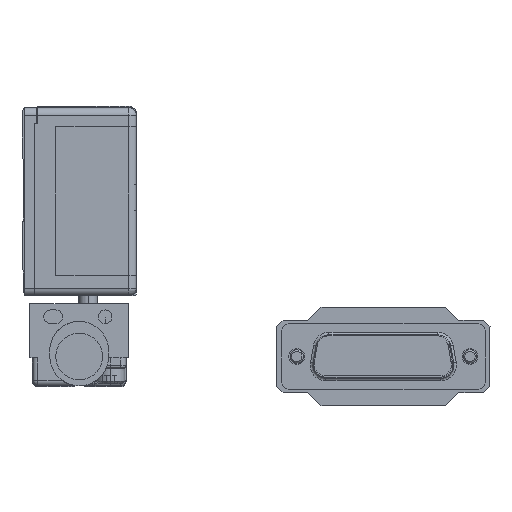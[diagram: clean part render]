
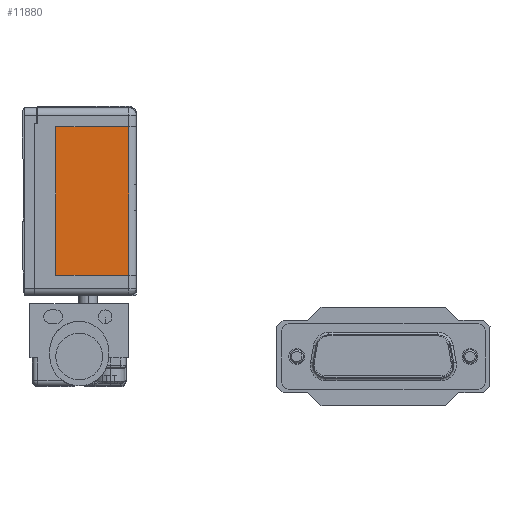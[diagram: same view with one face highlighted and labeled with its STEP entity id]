
A CAD part, left-side view. The second image highlights one B-rep face of the part: STEP entity #11880.
In plain terms, the highlighted planar face has unit normal (-1, 0, 0).
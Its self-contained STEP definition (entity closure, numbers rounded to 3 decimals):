
#11490=CARTESIAN_POINT('',(312.3,3.267,5.907));
#11500=DIRECTION('',(-1.,0.,0.));
#11510=DIRECTION('',(0.,1.,0.));
#11520=AXIS2_PLACEMENT_3D('',#11490,#11500,#11510);
#11530=PLANE('',#11520);
#11540=CARTESIAN_POINT('',(312.3,0.,4.))
;
#11550=DIRECTION('',(0.,1.,0.));
#11560=VECTOR('',#11550,1.);
#11570=LINE('',#11540,#11560);
#11580=CARTESIAN_POINT('',(312.3,1.5,4.));
#11590=VERTEX_POINT('',#11580);
#11600=CARTESIAN_POINT('',(312.3,15.5,4.));
#11610=VERTEX_POINT('',#11600);
#11620=EDGE_CURVE('',#11590,#11610,#11570,.T.);
#11630=ORIENTED_EDGE('',*,*,#11620,.F.);
#11640=CARTESIAN_POINT('',(312.3,15.5,4.));
#11650=DIRECTION('',(0.,0.,1.));
#11660=VECTOR('',#11650,1.);
#11670=LINE('',#11640,#11660);
#11680=CARTESIAN_POINT('',(312.3,15.5,32.5));
#11690=VERTEX_POINT('',#11680);
#11700=EDGE_CURVE('',#11610,#11690,#11670,.T.);
#11710=ORIENTED_EDGE('',*,*,#11700,.F.);
#11720=CARTESIAN_POINT('',(312.3,15.5,32.5));
#11730=DIRECTION('',(0.,-1.,0.));
#11740=VECTOR('',#11730,1.);
#11750=LINE('',#11720,#11740);
#11760=CARTESIAN_POINT('',(312.3,1.5,32.5));
#11770=VERTEX_POINT('',#11760);
#11780=EDGE_CURVE('',#11690,#11770,#11750,.T.);
#11790=ORIENTED_EDGE('',*,*,#11780,.F.);
#11800=CARTESIAN_POINT('',(312.3,1.5,36.5));
#11810=DIRECTION('',(0.,0.,-1.));
#11820=VECTOR('',#11810,1.);
#11830=LINE('',#11800,#11820);
#11840=EDGE_CURVE('',#11770,#11590,#11830,.T.);
#11850=ORIENTED_EDGE('',*,*,#11840,.F.);
#11860=EDGE_LOOP('',(#11850,#11790,#11710,#11630));
#11870=FACE_OUTER_BOUND('',#11860,.T.);
#11880=ADVANCED_FACE('',(#11870),#11530,.T.);
